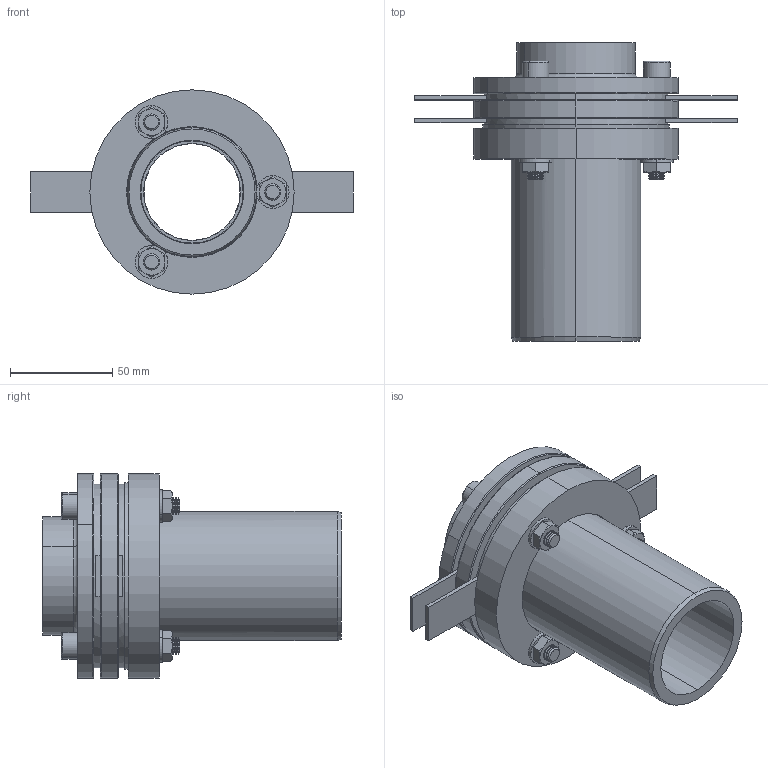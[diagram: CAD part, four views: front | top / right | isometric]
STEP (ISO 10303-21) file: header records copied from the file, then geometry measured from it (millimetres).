
FILE_DESCRIPTION (( 'STEP AP203' ), '1' );
FILE_NAME ('KP_C13-63-54F.step', '2011-08-08T12:02:07', ( '' ), ( '' ), 'SwSTEP 2.0', 'SolidWorks 2011', '' );
FILE_SCHEMA (( 'CONFIG_CONTROL_DESIGN' ));
Length unit declared in the file: millimetre
Products named in the file (1): KP_C13-63-54F
Bounding box: 157.75 x 146 x 100 mm (x, y, z)
Volume: 342332.5 mm3; surface area: 92506.3 mm2
Topology: 1 solids, 32 shells, 765 faces, 1666 edges, 932 vertices
Faces by surface type: cylinder 333, cone 315, plane 101, torus 16
Entity records: 21231 total; most frequent: DIRECTION 3992, CARTESIAN_POINT 3978, ORIENTED_EDGE 3332, EDGE_CURVE 1666, AXIS2_PLACEMENT_3D 1612, VERTEX_POINT 932, CIRCLE 846, EDGE_LOOP 806
